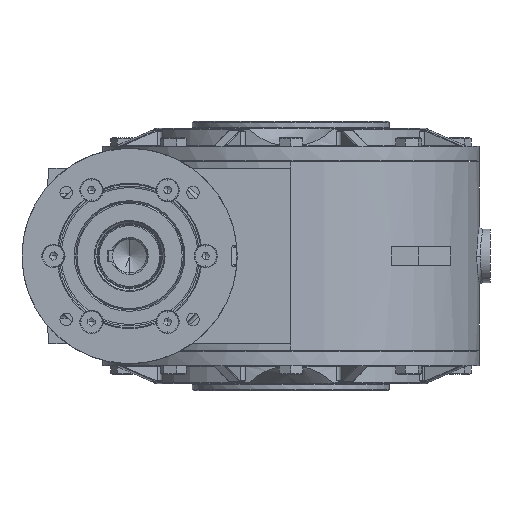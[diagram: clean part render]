
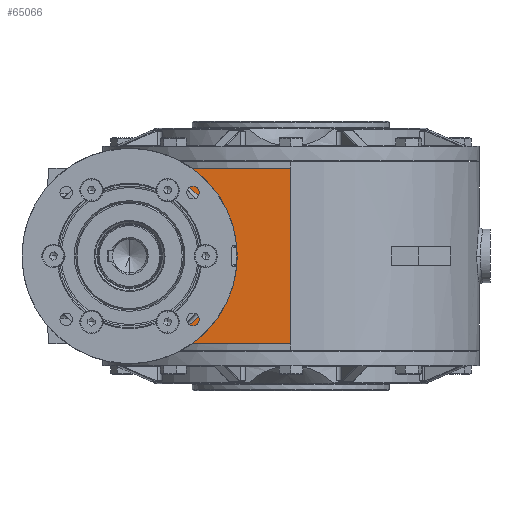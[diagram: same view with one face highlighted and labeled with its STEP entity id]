
A CAD part, left-side view. The second image highlights one B-rep face of the part: STEP entity #65066.
In plain terms, the highlighted planar face has unit normal (-1, 0, 0).
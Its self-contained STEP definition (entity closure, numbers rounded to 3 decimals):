
#38162 = CARTESIAN_POINT ( 'NONE',  ( -105., 0., 49. ) ) ;
#39054 = DIRECTION ( 'NONE',  ( 0., 0., -1. ) ) ;
#39055 = VECTOR ( 'NONE', #39054, 1000. ) ;
#39056 = CARTESIAN_POINT ( 'NONE',  ( -105., 0., 0. ) ) ;
#39057 = LINE ( 'NONE', #39056, #39055 ) ;
#39277 = CARTESIAN_POINT ( 'NONE',  ( -105., 0., -49. ) ) ;
#39440 = CARTESIAN_POINT ( 'NONE',  ( -105., 75.858, -49. ) ) ;
#39519 = DIRECTION ( 'NONE',  ( 0., 1., 0. ) ) ;
#39520 = VECTOR ( 'NONE', #39519, 1000. ) ;
#39522 = CARTESIAN_POINT ( 'NONE',  ( -105., 40.804, -49. ) ) ;
#39524 = LINE ( 'NONE', #39522, #39520 ) ;
#39764 = PLANE ( 'NONE',  #39766 ) ;
#39765 = CARTESIAN_POINT ( 'NONE',  ( -105., 40.804, 0. ) ) ;
#39766 = AXIS2_PLACEMENT_3D ( 'NONE', #39765, #39824, #39823 ) ;
#39767 = FACE_OUTER_BOUND ( 'NONE', #64902, .T. ) ;
#39804 = DIRECTION ( 'NONE',  ( 0., -1., 0. ) ) ;
#39805 = VECTOR ( 'NONE', #39804, 1000. ) ;
#39806 = CARTESIAN_POINT ( 'NONE',  ( -105., 40.804, 49. ) ) ;
#39807 = LINE ( 'NONE', #39806, #39805 ) ;
#39823 = DIRECTION ( 'NONE',  ( 0., 0., -1. ) ) ;
#39824 = DIRECTION ( 'NONE',  ( 1., 0., 0. ) ) ;
#39980 = CARTESIAN_POINT ( 'NONE',  ( -105., 75.858, 49. ) ) ;
#40087 = CARTESIAN_POINT ( 'NONE',  ( -105., 75.858, -49. ) ) ;
#40161 = CARTESIAN_POINT ( 'NONE',  ( -105., 75.858, 49. ) ) ;
#40162 = CARTESIAN_POINT ( 'NONE',  ( -105., 15.291, 31.519 ) ) ;
#40318 = CARTESIAN_POINT ( 'NONE',  ( -105., 15.291, -31.519 ) ) ;
#40325 =( BOUNDED_CURVE ( )  B_SPLINE_CURVE ( 3, ( #40087, #40318, #40162, #40161 ),
 .UNSPECIFIED., .F., .F. ) 
 B_SPLINE_CURVE_WITH_KNOTS ( ( 4, 4 ),
 ( 0., 1. ),
 .UNSPECIFIED. ) 
 CURVE ( )  GEOMETRIC_REPRESENTATION_ITEM ( )  RATIONAL_B_SPLINE_CURVE ( ( 1., 0.518, 0.518, 1. ) ) 
 REPRESENTATION_ITEM ( '' )  );
#64551 = VERTEX_POINT ( 'NONE', #38162 ) ;
#64827 = VERTEX_POINT ( 'NONE', #39277 ) ;
#64861 = EDGE_CURVE ( 'NONE', #64551, #64827, #39057, .T. ) ;
#64884 = ORIENTED_EDGE ( 'NONE', *, *, #64894, .F. ) ;
#64890 = VERTEX_POINT ( 'NONE', #39440 ) ;
#64894 = EDGE_CURVE ( 'NONE', #64827, #64890, #39524, .T. ) ;
#64895 = ORIENTED_EDGE ( 'NONE', *, *, #64861, .F. ) ;
#64902 = EDGE_LOOP ( 'NONE', ( #64884, #64895, #65079, #65099 ) ) ;
#65066 = ADVANCED_FACE ( 'NONE', ( #39767 ), #39764, .F. ) ;
#65079 = ORIENTED_EDGE ( 'NONE', *, *, #65080, .F. ) ;
#65080 = EDGE_CURVE ( 'NONE', #65098, #64551, #39807, .T. ) ;
#65093 = EDGE_CURVE ( 'NONE', #64890, #65098, #40325, .T. ) ;
#65098 = VERTEX_POINT ( 'NONE', #39980 ) ;
#65099 = ORIENTED_EDGE ( 'NONE', *, *, #65093, .F. ) ;
